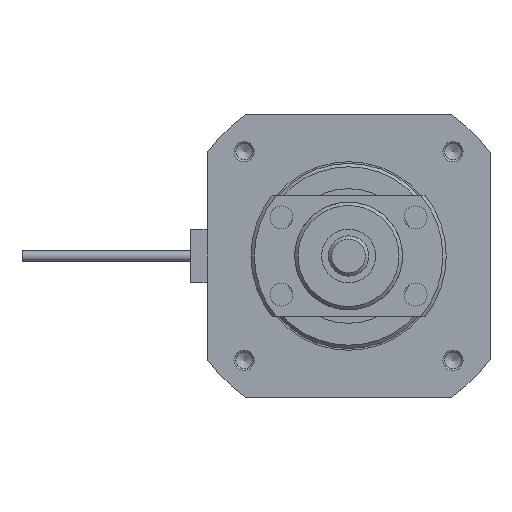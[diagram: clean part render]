
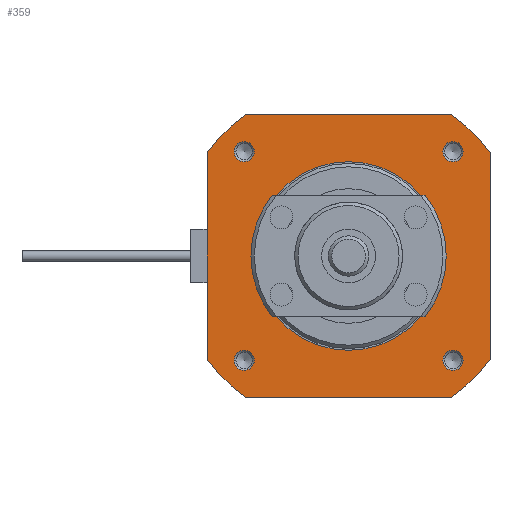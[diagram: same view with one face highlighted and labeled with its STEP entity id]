
A CAD part, left-side view. The second image highlights one B-rep face of the part: STEP entity #359.
In plain terms, the highlighted planar face has unit normal (-1, 0, 0) as drawn and (0, 0, 1) by its records, which use the part's own axes.
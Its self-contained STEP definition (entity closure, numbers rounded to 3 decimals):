
#359 = ADVANCED_FACE( '', ( #897, #898, #899, #900, #901, #902 ), #903, .F. );
#897 = FACE_OUTER_BOUND( '', #1688, .T. );
#898 = FACE_BOUND( '', #1689, .T. );
#899 = FACE_BOUND( '', #1690, .T. );
#900 = FACE_BOUND( '', #1691, .T. );
#901 = FACE_BOUND( '', #1692, .T. );
#902 = FACE_BOUND( '', #1693, .T. );
#903 = PLANE( '', #1694 );
#1688 = EDGE_LOOP( '', ( #2754, #2755, #2756, #2757, #2758, #2759, #2760, #2761 ) );
#1689 = EDGE_LOOP( '', ( #2762 ) );
#1690 = EDGE_LOOP( '', ( #2763 ) );
#1691 = EDGE_LOOP( '', ( #2764 ) );
#1692 = EDGE_LOOP( '', ( #2765 ) );
#1693 = EDGE_LOOP( '', ( #2766 ) );
#1694 = AXIS2_PLACEMENT_3D( '', #2767, #2768, #2769 );
#2754 = ORIENTED_EDGE( '', *, *, #4639, .T. );
#2755 = ORIENTED_EDGE( '', *, *, #4640, .F. );
#2756 = ORIENTED_EDGE( '', *, *, #4641, .T. );
#2757 = ORIENTED_EDGE( '', *, *, #4642, .F. );
#2758 = ORIENTED_EDGE( '', *, *, #4643, .T. );
#2759 = ORIENTED_EDGE( '', *, *, #4644, .F. );
#2760 = ORIENTED_EDGE( '', *, *, #4601, .T. );
#2761 = ORIENTED_EDGE( '', *, *, #4629, .F. );
#2762 = ORIENTED_EDGE( '', *, *, #4523, .T. );
#2763 = ORIENTED_EDGE( '', *, *, #4544, .T. );
#2764 = ORIENTED_EDGE( '', *, *, #4645, .T. );
#2765 = ORIENTED_EDGE( '', *, *, #4632, .T. );
#2766 = ORIENTED_EDGE( '', *, *, #4561, .T. );
#2767 = CARTESIAN_POINT( '', ( 0., 14., -188. ) );
#2768 = DIRECTION( '', ( 0., 0., -1. ) );
#2769 = DIRECTION( '', ( -1., 0., 0. ) );
#4523 = EDGE_CURVE( '', #5328, #5328, #5329, .T. );
#4544 = EDGE_CURVE( '', #5366, #5366, #5367, .T. );
#4561 = EDGE_CURVE( '', #5395, #5395, #5396, .T. );
#4601 = EDGE_CURVE( '', #5465, #5463, #5466, .T. );
#4629 = EDGE_CURVE( '', #5511, #5463, #5513, .T. );
#4632 = EDGE_CURVE( '', #5517, #5517, #5518, .T. );
#4639 = EDGE_CURVE( '', #5511, #5529, #5530, .T. );
#4640 = EDGE_CURVE( '', #5531, #5529, #5532, .T. );
#4641 = EDGE_CURVE( '', #5531, #5533, #5534, .T. );
#4642 = EDGE_CURVE( '', #5535, #5533, #5536, .T. );
#4643 = EDGE_CURVE( '', #5535, #5537, #5538, .T. );
#4644 = EDGE_CURVE( '', #5465, #5537, #5539, .T. );
#4645 = EDGE_CURVE( '', #5540, #5540, #5541, .T. );
#5328 = VERTEX_POINT( '', #6511 );
#5329 = CIRCLE( '', #6512, 1.5 );
#5366 = VERTEX_POINT( '', #6562 );
#5367 = CIRCLE( '', #6563, 1.5 );
#5395 = VERTEX_POINT( '', #6608 );
#5396 = CIRCLE( '', #6609, 14. );
#5463 = VERTEX_POINT( '', #6781 );
#5465 = VERTEX_POINT( '', #6784 );
#5466 = LINE( '', #6785, #6786 );
#5511 = VERTEX_POINT( '', #6848 );
#5513 = CIRCLE( '', #6851, 26. );
#5517 = VERTEX_POINT( '', #6855 );
#5518 = CIRCLE( '', #6856, 1.5 );
#5529 = VERTEX_POINT( '', #6869 );
#5530 = LINE( '', #6870, #6871 );
#5531 = VERTEX_POINT( '', #6872 );
#5532 = CIRCLE( '', #6873, 26. );
#5533 = VERTEX_POINT( '', #6874 );
#5534 = LINE( '', #6875, #6876 );
#5535 = VERTEX_POINT( '', #6877 );
#5536 = CIRCLE( '', #6878, 26. );
#5537 = VERTEX_POINT( '', #6879 );
#5538 = LINE( '', #6880, #6881 );
#5539 = CIRCLE( '', #6882, 26. );
#5540 = VERTEX_POINT( '', #6883 );
#5541 = CIRCLE( '', #6884, 1.5 );
#6511 = CARTESIAN_POINT( '', ( 14., -15.5, -188. ) );
#6512 = AXIS2_PLACEMENT_3D( '', #8309, #8310, #8311 );
#6562 = CARTESIAN_POINT( '', ( -17., -15.5, -188. ) );
#6563 = AXIS2_PLACEMENT_3D( '', #8341, #8342, #8343 );
#6608 = CARTESIAN_POINT( '', ( -14., 0., -188. ) );
#6609 = AXIS2_PLACEMENT_3D( '', #8360, #8361, #8362 );
#6781 = CARTESIAN_POINT( '', ( 21., 15.33, -188. ) );
#6784 = CARTESIAN_POINT( '', ( 21., -15.33, -188. ) );
#6785 = CARTESIAN_POINT( '', ( 21., -21., -188. ) );
#6786 = VECTOR( '', #8404, 1000. );
#6848 = CARTESIAN_POINT( '', ( 15.33, 21., -188. ) );
#6851 = AXIS2_PLACEMENT_3D( '', #8432, #8433, #8434 );
#6855 = CARTESIAN_POINT( '', ( -17., 15.5, -188. ) );
#6856 = AXIS2_PLACEMENT_3D( '', #8438, #8439, #8440 );
#6869 = CARTESIAN_POINT( '', ( -15.33, 21., -188. ) );
#6870 = CARTESIAN_POINT( '', ( 21., 21., -188. ) );
#6871 = VECTOR( '', #8449, 1000. );
#6872 = CARTESIAN_POINT( '', ( -21., 15.33, -188. ) );
#6873 = AXIS2_PLACEMENT_3D( '', #8450, #8451, #8452 );
#6874 = CARTESIAN_POINT( '', ( -21., -15.33, -188. ) );
#6875 = CARTESIAN_POINT( '', ( -21., 21., -188. ) );
#6876 = VECTOR( '', #8453, 1000. );
#6877 = CARTESIAN_POINT( '', ( -15.33, -21., -188. ) );
#6878 = AXIS2_PLACEMENT_3D( '', #8454, #8455, #8456 );
#6879 = CARTESIAN_POINT( '', ( 15.33, -21., -188. ) );
#6880 = CARTESIAN_POINT( '', ( -21., -21., -188. ) );
#6881 = VECTOR( '', #8457, 1000. );
#6882 = AXIS2_PLACEMENT_3D( '', #8458, #8459, #8460 );
#6883 = CARTESIAN_POINT( '', ( 14., 15.5, -188. ) );
#6884 = AXIS2_PLACEMENT_3D( '', #8461, #8462, #8463 );
#8309 = CARTESIAN_POINT( '', ( 15.5, -15.5, -188. ) );
#8310 = DIRECTION( '', ( 0., 0., -1. ) );
#8311 = DIRECTION( '', ( -1., 0., 0. ) );
#8341 = CARTESIAN_POINT( '', ( -15.5, -15.5, -188. ) );
#8342 = DIRECTION( '', ( 0., 0., -1. ) );
#8343 = DIRECTION( '', ( -1., 0., 0. ) );
#8360 = CARTESIAN_POINT( '', ( 0., 0., -188. ) );
#8361 = DIRECTION( '', ( 0., 0., -1. ) );
#8362 = DIRECTION( '', ( -1., 0., 0. ) );
#8404 = DIRECTION( '', ( 0., 1., 0. ) );
#8432 = CARTESIAN_POINT( '', ( 0., 0., -188. ) );
#8433 = DIRECTION( '', ( 0., 0., -1. ) );
#8434 = DIRECTION( '', ( -1., 0., 0. ) );
#8438 = CARTESIAN_POINT( '', ( -15.5, 15.5, -188. ) );
#8439 = DIRECTION( '', ( 0., 0., -1. ) );
#8440 = DIRECTION( '', ( -1., 0., 0. ) );
#8449 = DIRECTION( '', ( -1., 0., 0. ) );
#8450 = CARTESIAN_POINT( '', ( 0., 0., -188. ) );
#8451 = DIRECTION( '', ( 0., 0., -1. ) );
#8452 = DIRECTION( '', ( -1., 0., 0. ) );
#8453 = DIRECTION( '', ( 0., -1., 0. ) );
#8454 = CARTESIAN_POINT( '', ( 0., 0., -188. ) );
#8455 = DIRECTION( '', ( 0., 0., -1. ) );
#8456 = DIRECTION( '', ( -1., 0., 0. ) );
#8457 = DIRECTION( '', ( 1., 0., 0. ) );
#8458 = CARTESIAN_POINT( '', ( 0., 0., -188. ) );
#8459 = DIRECTION( '', ( 0., 0., -1. ) );
#8460 = DIRECTION( '', ( -1., 0., 0. ) );
#8461 = CARTESIAN_POINT( '', ( 15.5, 15.5, -188. ) );
#8462 = DIRECTION( '', ( 0., 0., -1. ) );
#8463 = DIRECTION( '', ( -1., 0., 0. ) );
